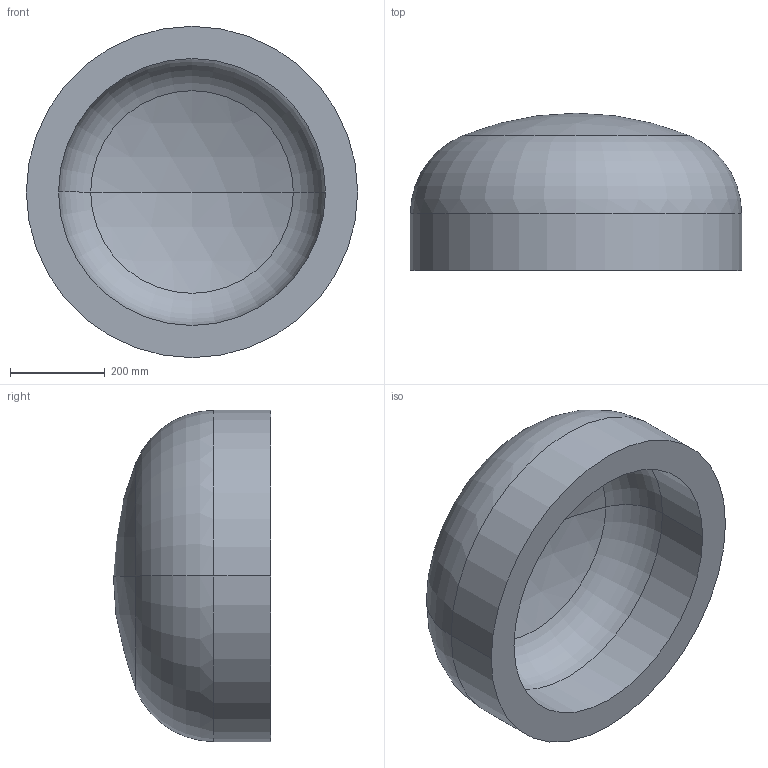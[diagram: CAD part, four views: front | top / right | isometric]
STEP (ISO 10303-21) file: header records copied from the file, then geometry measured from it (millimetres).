
FILE_DESCRIPTION (( 'STEP AP203' ), '1' );
FILE_NAME ('DIN 28013 Korbbogenform_-_Boden DIN 28013 - 700 x 120 - I - s=68.step', '2016-07-01T08:09:58', ( '' ), ( '' ), 'SwSTEP 2.0', 'SolidWorks 2013', '' );
FILE_SCHEMA (( 'CONFIG_CONTROL_DESIGN' ));
Length unit declared in the file: millimetre
Products named in the file (1): DIN 28013 Korbbogenform_-_Boden DIN 28013 - 700 x 120 - I - s=68
Bounding box: 700 x 332.17 x 700 mm (x, y, z)
Volume: 48471834.4 mm3; surface area: 1570339.6 mm2
Topology: 1 solids, 1 shells, 13 faces, 24 edges, 14 vertices
Faces by surface type: torus 4, cylinder 4, sphere 4, plane 1
Entity records: 407 total; most frequent: DIRECTION 72, CARTESIAN_POINT 52, ORIENTED_EDGE 48, AXIS2_PLACEMENT_3D 34, EDGE_CURVE 24, CIRCLE 20, VERTEX_POINT 14, EDGE_LOOP 14
